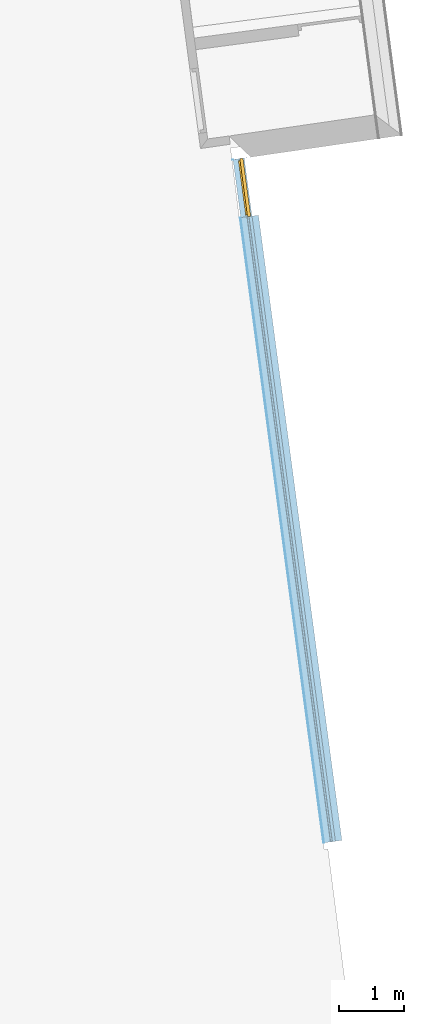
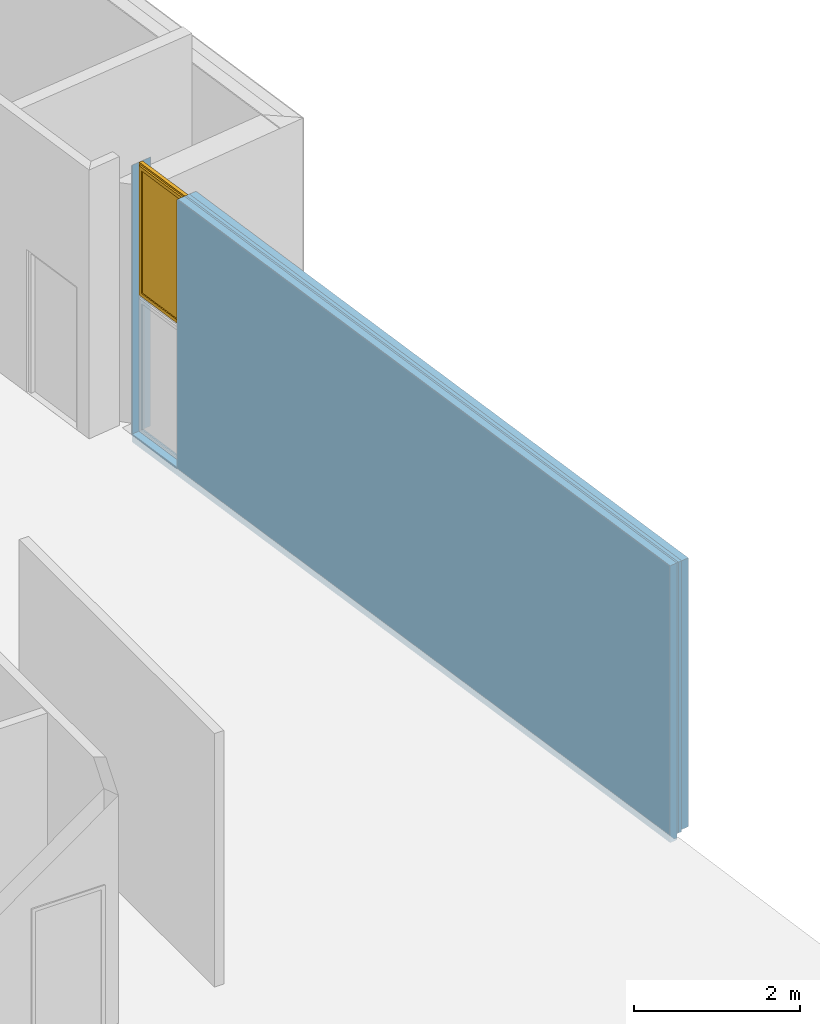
# One storey, part 9 of 9: 1 window, 2 openings, 1 element without a shape of its own, plus 5 elements that do not belong to this part.
"""IFC2X3 building model written with IfcOpenShell, lengths in metres."""

from ifc_helpers import new_model, entity, si_unit, converted_unit, money_unit, direction, frame, origin_with_axes, origin_2d_with_axis, place, context, subcontext, project, spatial, polyline, rectangle, outline, extrude, faceted_brep, source, transform, mapped, material, material_list, type_object, element, fill, aggregate, save


model = new_model("IFC2X3")

# Units and contexts
model_context = context("Model", 3, precision=1e-05, world=origin_with_axes(), true_north=direction((0.0, 1.0)))
body_context = subcontext(model_context, "Body", "Model", "MODEL_VIEW")
ifc_project = project(units=[si_unit("LENGTHUNIT", "METRE"), si_unit("AREAUNIT", "SQUARE_METRE"), si_unit("VOLUMEUNIT", "CUBIC_METRE"), converted_unit("PLANEANGLEUNIT", "DEGREE", entity("IfcPlaneAngleMeasure", 0.0174532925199), si_unit("PLANEANGLEUNIT", "RADIAN"), dimensions=[0, 0, 0, 0, 0, 0, 0]), si_unit("SOLIDANGLEUNIT", "STERADIAN"), money_unit("EUR"), converted_unit("TIMEUNIT", "Year", entity("IfcTimeMeasure", 31556926.0), si_unit("TIMEUNIT", "SECOND"), dimensions=[0, 0, 0, 0, 0, 0, 0]), si_unit("MASSUNIT", "GRAM"), si_unit("THERMODYNAMICTEMPERATUREUNIT", "DEGREE_CELSIUS"), si_unit("LUMINOUSINTENSITYUNIT", "LUMEN")], contexts=[model_context])

# Site, building, storey
site_placement = place(None, origin_with_axes())
site = spatial("IfcSite", under=ifc_project, at=site_placement, Name="Undefined", CompositionType="ELEMENT")
building_placement = place(site_placement, origin_with_axes())
building = spatial("IfcBuilding", under=site, at=building_placement, Name="Undefined", CompositionType="ELEMENT")
storey_placement = place(building_placement, frame((0.0, 0.0, 13.45), z_axis=(0.0, 0.0, 1.0), x_axis=(1.0, 0.0, 0.0)))
storey = spatial("IfcBuildingStorey", under=building, at=storey_placement, Name="R+2", CompositionType="ELEMENT", Elevation=13.45)

# Window
ifc_material_1 = material(Name="Background")
ifc_material_2 = material(Name="Air Space")
ifc_material_3 = material(Name="Rigid Insulation")
ifc_material_list = material_list([ifc_material_1, ifc_material_2, ifc_material_1, ifc_material_1, ifc_material_1, ifc_material_3, ifc_material_1, ifc_material_1, ifc_material_1, ifc_material_1, ifc_material_2, ifc_material_1, ifc_material_1])
window_style = type_object("IfcWindowStyle", Name="Fen\x90tre 18", ConstructionType="NOTDEFINED", OperationType="SINGLE_PANEL", ParameterTakesPrecedence=False, Sizeable=False)
shared_shape = source(origin_with_axes(), body_context, "Body", "Brep", [
    faceted_brep([(0.425, 0.0, 1.925), (0.425, -0.025, 1.925), (0.4, -0.025, 1.9), (0.4, -0.05, 1.9), (0.45, -0.05, 1.95), (0.45, 0.0, 1.95), (0.425, 0.0, 0.025), (0.425, -0.025, 0.025), (0.4, -0.025, 0.05), (0.4, -0.05, 0.05), (0.45, -0.05, 0.0), (0.45, 0.0, 0.0)], [[[0, 1, 2, 3, 4, 5]], [[0, 6, 7, 1]], [[8, 2, 1, 7]], [[2, 8, 9, 3]], [[3, 9, 10, 4]], [[4, 10, 11, 5]], [[6, 0, 5, 11]], [[7, 6, 11, 10, 9, 8]]]),
    faceted_brep([(-0.4, -0.025, 1.9), (-0.425, -0.025, 1.925), (-0.425, 0.0, 1.925), (-0.45, 0.0, 1.95), (-0.45, -0.05, 1.95), (-0.4, -0.05, 1.9), (-0.4, -0.025, 0.05), (-0.425, -0.025, 0.025), (-0.425, 0.0, 0.025), (-0.45, 0.0, 0.0), (-0.45, -0.05, 0.0), (-0.4, -0.05, 0.05)], [[[0, 1, 2, 3, 4, 5]], [[1, 0, 6, 7]], [[8, 2, 1, 7]], [[2, 8, 9, 3]], [[10, 4, 3, 9]], [[11, 5, 4, 10]], [[6, 0, 5, 11]], [[7, 6, 11, 10, 9, 8]]]),
    faceted_brep([(-0.4, -0.025, 0.05), (-0.425, -0.025, 0.025), (-0.425, 0.0, 0.025), (-0.45, 0.0, 0.0), (-0.45, -0.05, 0.0), (-0.4, -0.05, 0.05), (0.4, -0.025, 0.05), (0.425, -0.025, 0.025), (0.425, 0.0, 0.025), (0.45, 0.0, 0.0), (0.45, -0.05, 0.0), (0.4, -0.05, 0.05)], [[[0, 1, 2, 3, 4, 5]], [[1, 0, 6, 7]], [[8, 2, 1, 7]], [[2, 8, 9, 3]], [[10, 4, 3, 9]], [[11, 5, 4, 10]], [[6, 0, 5, 11]], [[7, 6, 11, 10, 9, 8]]]),
    faceted_brep([(0.425, 0.0, 1.925), (-0.425, 0.0, 1.925), (-0.45, 0.0, 1.95), (0.45, 0.0, 1.95), (0.425, -0.025, 1.925), (-0.425, -0.025, 1.925), (-0.4, -0.025, 1.9), (-0.4, -0.05, 1.9), (-0.45, -0.05, 1.95), (0.45, -0.05, 1.95), (0.4, -0.05, 1.9), (0.4, -0.025, 1.9)], [[[0, 1, 2, 3]], [[1, 0, 4, 5]], [[5, 6, 7, 8, 2, 1]], [[8, 9, 3, 2]], [[4, 0, 3, 9, 10, 11]], [[6, 5, 4, 11]], [[6, 11, 10, 7]], [[7, 10, 9, 8]]]),
    faceted_brep([(0.375, -0.025, 1.875), (0.425, -0.025, 1.925), (0.425, 0.025, 1.925), (0.375, 0.025, 1.875), (0.375, -0.025, 0.075), (0.425, -0.025, 0.025), (0.425, 0.025, 0.025), (0.375, 0.025, 0.075)], [[[0, 1, 2, 3]], [[0, 4, 5, 1]], [[1, 5, 6, 2]], [[3, 2, 6, 7]], [[4, 0, 3, 7]], [[5, 4, 7, 6]]]),
    faceted_brep([(-0.375, -0.025, 0.075), (-0.425, -0.025, 0.025), (-0.425, 0.025, 0.025), (-0.375, 0.025, 0.075), (-0.375, -0.025, 1.875), (-0.425, -0.025, 1.925), (-0.425, 0.025, 1.925), (-0.375, 0.025, 1.875)], [[[0, 1, 2, 3]], [[0, 4, 5, 1]], [[1, 5, 6, 2]], [[3, 2, 6, 7]], [[4, 0, 3, 7]], [[5, 4, 7, 6]]]),
    faceted_brep([(-0.425, -0.025, 0.025), (-0.375, -0.025, 0.075), (-0.375, 0.025, 0.075), (-0.425, 0.025, 0.025), (0.425, -0.025, 0.025), (0.375, -0.025, 0.075), (0.375, 0.025, 0.075), (0.425, 0.025, 0.025)], [[[0, 1, 2, 3]], [[0, 4, 5, 1]], [[1, 5, 6, 2]], [[3, 2, 6, 7]], [[4, 0, 3, 7]], [[5, 4, 7, 6]]]),
    faceted_brep([(0.425, -0.025, 1.925), (0.375, -0.025, 1.875), (0.375, 0.025, 1.875), (0.425, 0.025, 1.925), (-0.425, -0.025, 1.925), (-0.375, -0.025, 1.875), (-0.375, 0.025, 1.875), (-0.425, 0.025, 1.925)], [[[0, 1, 2, 3]], [[0, 4, 5, 1]], [[1, 5, 6, 2]], [[3, 2, 6, 7]], [[4, 0, 3, 7]], [[5, 4, 7, 6]]]),
    faceted_brep([(0.375, -0.01, 0.075), (-0.375, -0.01, 0.075), (-0.375, 0.01, 0.075), (0.375, 0.01, 0.075), (0.375, -0.01, 1.875), (-0.375, -0.01, 1.875), (-0.375, 0.01, 1.875), (0.375, 0.01, 1.875)], [[[0, 1, 2, 3]], [[0, 4, 5, 1]], [[1, 5, 6, 2]], [[3, 2, 6, 7]], [[4, 0, 3, 7]], [[5, 4, 7, 6]]]),
])
wall_placement = place(storey_placement, frame((67.426098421, 9.33793716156, 0.0), z_axis=(0.0, 0.0, 1.0), x_axis=(-0.132256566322, 0.991215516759, 0.0)))
opening_2_placement = place(wall_placement, frame((10.1610210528, 0.0, 2.0), z_axis=(0.0, 0.0, 1.0), x_axis=(1.0, 0.0, 0.0)))
window_placement = place(opening_2_placement, frame((-0.45, 0.0, 0.0), z_axis=(0.0, 0.0, 1.0), x_axis=(1.0, 0.0, 0.0)))
window = element("IfcWindow", 1, at=window_placement, inside=storey, type_object=window_style, material=ifc_material_list, Name="WD - 004", OverallHeight=1.95, OverallWidth=0.9, context=body_context, shape_type="MappedRepresentation", body=[
    mapped(shared_shape, transform((0.45, 0.17, 0.0))),
])

# Wall, openings
wall_type = type_object("IfcWallType", Name="Panneau 2eme 287 x 4070", PredefinedType="NOTDEFINED")
wall = element("IfcWall", 2, at=wall_placement, inside=storey, type_object=wall_type, Name="SW - 012", ObjectType="WALL")
opening_1_placement = place(wall_placement, frame((10.1610210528, 0.0, 0.0), z_axis=(0.0, 0.0, 1.0), x_axis=(1.0, 0.0, 0.0)))
element("IfcOpeningElement", 3, at=opening_1_placement, cuts=wall, Name="WD - 004", context=body_context, shape_type="SweptSolid", body=[
    extrude(rectangle(XDim=0.9, YDim=2.0, at=origin_2d_with_axis()), frame((0.0, 0.574, 1.0), z_axis=(0.0, 1.0, 0.0), x_axis=(-1.0, 0.0, 0.0)), (0.0, 0.0, -1.0), 0.454),
    extrude(rectangle(XDim=0.9, YDim=2.0, at=origin_2d_with_axis()), frame((0.0, -0.287, 1.0), z_axis=(0.0, -1.0, 0.0), x_axis=(-1.0, 0.0, 0.0)), (0.0, 0.0, -1.0), 0.407),
])
opening_2 = element("IfcOpeningElement", 4, at=opening_2_placement, cuts=wall, Name="WD - 004", context=body_context, shape_type="SweptSolid", body=[
    extrude(rectangle(XDim=0.9, YDim=1.95, at=origin_2d_with_axis()), frame((0.0, 0.574, 0.975), z_axis=(0.0, 1.0, 0.0), x_axis=(-1.0, 0.0, 0.0)), (0.0, 0.0, -1.0), 0.454),
    extrude(rectangle(XDim=0.9, YDim=1.95, at=origin_2d_with_axis()), frame((0.0, -0.287, 0.975), z_axis=(0.0, -1.0, 0.0), x_axis=(-1.0, 0.0, 0.0)), (0.0, 0.0, -1.0), 0.407),
])

fill(opening_2, window)

# Building element part
ifc_material_4 = material(Name="Finition int - Enduit pl\x89tre")
building_element_part_1_placement = place(wall_placement, origin_with_axes())
building_element_part_1 = element("IfcBuildingElementPart", 5, at=building_element_part_1_placement, material=ifc_material_4, context=body_context, shape_type="SweptSolid", body=[
    extrude(outline(polyline([(-0.1, 0.0), (0.0, 0.0), (0.0, 3.95), (-0.1, 3.95), (-0.1, 0.0)])), frame((0.0, 0.0, 0.0), z_axis=(-1.0, 0.0, 0.0), x_axis=(0.0, -1.0, 0.0)), (0.0, 0.0, -1.0), 10.6131166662),
])

ifc_material_5 = material(Name="Lame d'air")
building_element_part_2_placement = place(wall_placement, origin_with_axes())
building_element_part_2 = element("IfcBuildingElementPart", 6, at=building_element_part_2_placement, material=ifc_material_5, context=body_context, shape_type="SweptSolid", body=[
    extrude(outline(polyline([(-0.15, -0.03), (-0.1, -0.03), (-0.1, 3.95), (-0.15, 3.95), (-0.15, -0.03)])), frame((0.0, 0.0, 0.0), z_axis=(-1.0, 0.0, 0.0), x_axis=(0.0, -1.0, 0.0)), (0.0, 0.0, -1.0), 10.6131166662),
])

ifc_material_6 = material(Name="Isolation - Laine de verre")
building_element_part_3_placement = place(wall_placement, origin_with_axes())
building_element_part_3 = element("IfcBuildingElementPart", 7, at=building_element_part_3_placement, material=ifc_material_6, context=body_context, shape_type="SweptSolid", body=[
    extrude(outline(polyline([(-0.175, -0.03), (-0.15, -0.03), (-0.15, 3.95), (-0.175, 3.95), (-0.175, -0.03)])), frame((0.0, 0.0, 0.0), z_axis=(-1.0, 0.0, 0.0), x_axis=(0.0, -1.0, 0.0)), (0.0, 0.0, -1.0), 10.6131166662),
])

ifc_material_7 = material(Name="Struct. - B.A. banch\x8e")
building_element_part_4_placement = place(wall_placement, origin_with_axes())
building_element_part_4 = element("IfcBuildingElementPart", 8, at=building_element_part_4_placement, material=ifc_material_7, context=body_context, shape_type="SweptSolid", body=[
    extrude(outline(polyline([(-0.275, -0.12), (-0.175, -0.12), (-0.175, 3.95), (-0.275, 3.95), (-0.275, -0.12)])), frame((0.0, 0.0, 0.0), z_axis=(-1.0, 0.0, 0.0), x_axis=(0.0, -1.0, 0.0)), (0.0, 0.0, -1.0), 10.6131166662),
])

ifc_material_8 = material(Name="Finition int - Enduit min\x8eral")
building_element_part_5_placement = place(wall_placement, origin_with_axes())
building_element_part_5 = element("IfcBuildingElementPart", 9, at=building_element_part_5_placement, material=ifc_material_8, context=body_context, shape_type="SweptSolid", body=[
    extrude(outline(polyline([(-0.287, 0.0), (-0.275, 0.0), (-0.275, 3.95), (-0.287, 3.95), (-0.287, 0.0)])), frame((0.0, 0.0, 0.0), z_axis=(-1.0, 0.0, 0.0), x_axis=(0.0, -1.0, 0.0)), (0.0, 0.0, -1.0), 10.6131166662),
])

aggregate(wall, [building_element_part_1, building_element_part_2, building_element_part_3, building_element_part_4, building_element_part_5])

save(model, "model.ifc")
